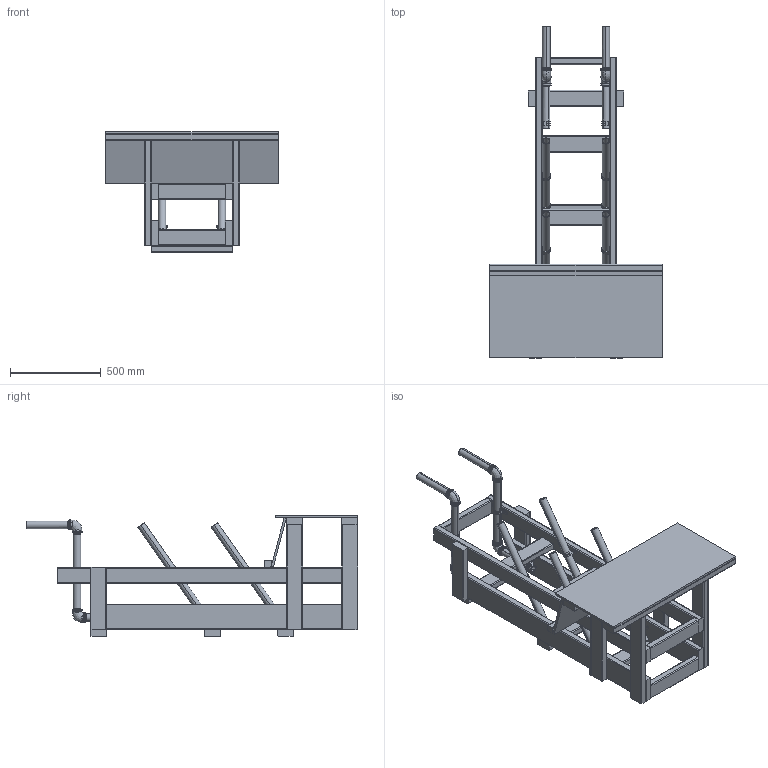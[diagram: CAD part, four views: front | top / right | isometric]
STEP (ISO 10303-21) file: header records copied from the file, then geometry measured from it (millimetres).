
FILE_DESCRIPTION (( 'STEP AP214' ), '1' );
FILE_NAME ('TE-25300.STEP', '2024-12-23T21:26:14', ( '' ), ( '' ), 'SwSTEP 2.0', 'SolidWorks 2022', '' );
FILE_SCHEMA (( 'AUTOMOTIVE_DESIGN' ));
Length unit declared in the file: inch
Products named in the file (16): TE-25302; TE-25301; TE-25303; TE-25323; TE-25304; TE-25312; TE-25322; TE-25314_4457K117; TE-25306; TE-25300; TE-25316_9439T23; TE-25315_44605K117; TE-25321; TE-25305; TE-25313_9157K765; TE-25324
Assembly tree (49 placements, depth 2):
  TE-25300
    TE-25301
    TE-25302
    TE-25303  x2
    TE-25304
    TE-25305  x5
    TE-25306  x3
    TE-25321  x2
    TE-25322  x2
    TE-25324  x4
    TE-25323  x2
    TE-25312  x4
    TE-25313_9157K765  x4
    TE-25314_4457K117  x2
    TE-25315_44605K117  x4
    TE-25316_9439T23  x12
Bounding box: 946.66 x 1825.49 x 664.9 mm (x, y, z)
Volume: 65866883.4 mm3; surface area: 6917337.9 mm2
Topology: 49 solids, 49 shells, 1138 faces, 3708 edges, 2708 vertices
Faces by surface type: cone 400, plane 302, cylinder 284, bspline 120, torus 32
Entity records: 42662 total; most frequent: CARTESIAN_POINT 33745, ORIENTED_EDGE 1954, DIRECTION 1325, EDGE_CURVE 977, VERTEX_POINT 709, AXIS2_PLACEMENT_3D 500, B_SPLINE_CURVE_WITH_KNOTS 483, LINE 325
